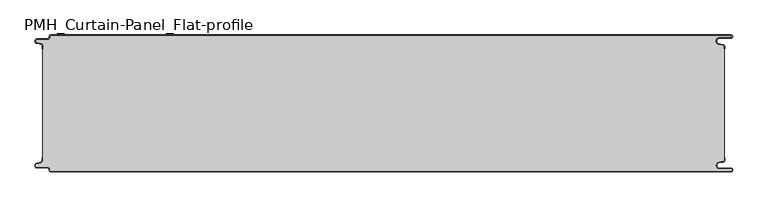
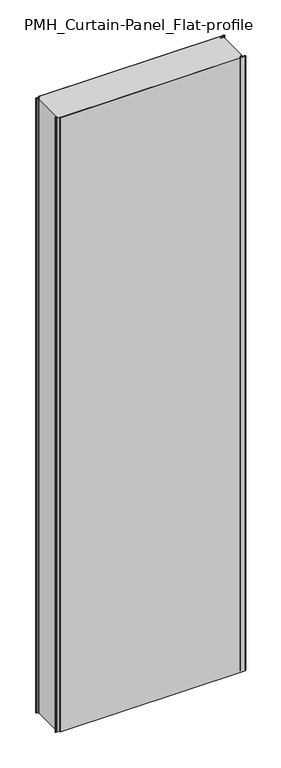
"""IFC4 building model written with IfcOpenShell, lengths in millimetres: plate geometry, PMH_Curtain-Panel_Flat-profile : ACH_PMH_Stone-wool-Panel_200M."""

import ifcopenshell
import ifcopenshell.guid

model = None  # the IFC model being written
_history = None  # IfcOwnerHistory: only IFC2X3 demands one
_inside = {}  # id of a spatial element -> (the spatial element, [elements in it])
_under = {}  # id of a project, library or spatial element -> (it, [spatial elements below it])
_declared = {}  # id of a project -> (the project, [libraries it declares])
_typed = {}  # id of a type object -> (the type object, [elements of that type])
_made_of = {}  # id of a material, layer set ... -> (it, [elements and type objects made of it])


def new_model(schema):
    """Start an empty IFC model of exactly this schema.

    Asked for "IFC4X3", IfcOpenShell would pick the latest addendum, in which some entities
    have other attributes; the version numbers below select the first issue.
    IFC2X3 requires an IfcOwnerHistory on every rooted entity: one is made here for all.
    """
    global model, _history
    if schema == "IFC4X3":
        model = ifcopenshell.file(schema_version=(4, 3, 0, 0))
    else:
        model = ifcopenshell.file(schema=schema)
    _inside.clear()
    _under.clear()
    _declared.clear()
    _typed.clear()
    _made_of.clear()
    _history = None
    if model.schema == "IFC2X3":
        org = make("IfcOrganization", Name="unknown")
        user = make(
            "IfcPersonAndOrganization",
            ThePerson=make("IfcPerson", FamilyName="unknown"),
            TheOrganization=org,
        )
        app = make(
            "IfcApplication",
            ApplicationDeveloper=org,
            Version="unknown",
            ApplicationFullName="unknown",
            ApplicationIdentifier="unknown",
        )
        _history = make(
            "IfcOwnerHistory",
            OwningUser=user,
            OwningApplication=app,
            ChangeAction="ADDED",
            CreationDate=0,
        )
    return model


def make(cls, **values):
    """One entity of the class cls with the attributes given. An attribute that is None is left unset."""
    return model.create_entity(
        cls, **{name: value for name, value in values.items() if value is not None}
    )


def rooted(cls, **values):
    """An entity with a GlobalId (a new one), such as an element, a storey or a relation."""
    return make(cls, GlobalId=ifcopenshell.guid.new(), OwnerHistory=_history, **values)


def si_unit(unit_type, name, prefix=None):
    """IfcSIUnit, for example si_unit("LENGTHUNIT", "METRE", prefix="MILLI")."""
    return make("IfcSIUnit", UnitType=unit_type, Prefix=prefix, Name=name)


def assignment(units):
    """IfcUnitAssignment: the units of a project."""
    return None if units is None else make("IfcUnitAssignment", Units=units)


def point(xyz):
    """IfcCartesianPoint."""
    return None if xyz is None else make("IfcCartesianPoint", Coordinates=xyz)


def direction(xyz):
    """IfcDirection."""
    return None if xyz is None else make("IfcDirection", DirectionRatios=xyz)


def frame(location, z_axis=None, x_axis=None):
    """IfcAxis2Placement3D, a coordinate frame: its origin and axes. An axis left out is left unset."""
    return make(
        "IfcAxis2Placement3D",
        Location=point(location),
        Axis=direction(z_axis),
        RefDirection=direction(x_axis),
    )


def frame_2d(location, x_axis=None):
    """IfcAxis2Placement2D, a coordinate frame in the plane: its origin and x axis."""
    return make(
        "IfcAxis2Placement2D", Location=point(location), RefDirection=direction(x_axis)
    )


def origin():
    """The frame at (0, 0, 0) with its axes left unset."""
    return frame((0.0, 0.0, 0.0))


def origin_with_axes():
    """The frame at (0, 0, 0) with the z axis (0, 0, 1) and the x axis (1, 0, 0) written out."""
    return frame((0.0, 0.0, 0.0), z_axis=(0.0, 0.0, 1.0), x_axis=(1.0, 0.0, 0.0))


def place(relative_to, where):
    """IfcLocalPlacement: puts the frame where relative to a parent placement (None: the world)."""
    return make(
        "IfcLocalPlacement", PlacementRelTo=relative_to, RelativePlacement=where
    )


def context(
    kind, dimensions, precision=None, world=None, true_north=None, identifier=None
):
    """IfcGeometricRepresentationContext, for example the 3D "Model" context."""
    return make(
        "IfcGeometricRepresentationContext",
        ContextIdentifier=identifier,
        ContextType=kind,
        CoordinateSpaceDimension=dimensions,
        Precision=precision,
        WorldCoordinateSystem=world,
        TrueNorth=true_north,
    )


def project(units=None, contexts=None):
    """IfcProject with its units and contexts."""
    return rooted(
        "IfcProject",
        Name="project",
        RepresentationContexts=contexts,
        UnitsInContext=assignment(units),
    )


def spatial(cls, under=None, at=None, **own):
    """A site, building, storey or space (cls), placed at a placement, below another one or the project."""
    s = rooted(cls, ObjectPlacement=at, **own)
    if under is not None:
        _under.setdefault(under.id(), (under, []))[1].append(s)
    return s


def polyline(points):
    """IfcPolyline through the points."""
    return make("IfcPolyline", Points=[point(p) for p in points])


def circle_curve(where, radius):
    """IfcCircle in the frame where."""
    return make("IfcCircle", Position=where, Radius=radius)


def trimmed(basis, trim1, trim2, sense, master):
    """IfcTrimmedCurve: the piece of a basis curve between two trims."""
    return make(
        "IfcTrimmedCurve",
        BasisCurve=basis,
        Trim1=trim1,
        Trim2=trim2,
        SenseAgreement=sense,
        MasterRepresentation=master,
    )


def segment(curve, same_sense, transition):
    """IfcCompositeCurveSegment."""
    return make(
        "IfcCompositeCurveSegment",
        Transition=transition,
        SameSense=same_sense,
        ParentCurve=curve,
    )


def composite_curve(segments, self_intersect=None):
    """IfcCompositeCurve: segments joined end to end."""
    return make("IfcCompositeCurve", Segments=segments, SelfIntersect=self_intersect)


def outline(outer, holes=None, kind="AREA"):
    """IfcArbitraryClosedProfileDef: a profile drawn as a closed curve; with holes, ...WithVoids."""
    if holes is None:
        return make("IfcArbitraryClosedProfileDef", ProfileType=kind, OuterCurve=outer)
    return make(
        "IfcArbitraryProfileDefWithVoids",
        ProfileType=kind,
        OuterCurve=outer,
        InnerCurves=holes,
    )


def extrude(swept, where, along, depth):
    """IfcExtrudedAreaSolid: the profile swept, set in the frame where, extruded along a direction by depth."""
    return make(
        "IfcExtrudedAreaSolid",
        SweptArea=swept,
        Position=where,
        ExtrudedDirection=direction(along),
        Depth=depth,
    )


def shape(context_of_items, identifier, shape_type, items):
    """IfcShapeRepresentation: the items that make up one representation, for example the "Body"."""
    return make(
        "IfcShapeRepresentation",
        ContextOfItems=context_of_items,
        RepresentationIdentifier=identifier,
        RepresentationType=shape_type,
        Items=items,
    )


def source(mapping_origin, context_of_items, identifier, shape_type, items):
    """IfcRepresentationMap: a shape defined once, which mapped items show again and again."""
    return make(
        "IfcRepresentationMap",
        MappingOrigin=mapping_origin,
        MappedRepresentation=shape(context_of_items, identifier, shape_type, items),
    )


def transform(
    local_origin,
    x_axis=None,
    y_axis=None,
    z_axis=None,
    scale=None,
    scale2=None,
    scale3=None,
    uniform=True,
):
    """IfcCartesianTransformationOperator3D, or its non-uniform kind. x_axis, y_axis, z_axis: its Axis1, 2, 3."""
    if uniform:
        return make(
            "IfcCartesianTransformationOperator3D",
            Axis1=direction(x_axis),
            Axis2=direction(y_axis),
            LocalOrigin=point(local_origin),
            Scale=scale,
            Axis3=direction(z_axis),
        )
    return make(
        "IfcCartesianTransformationOperator3DnonUniform",
        Axis1=direction(x_axis),
        Axis2=direction(y_axis),
        LocalOrigin=point(local_origin),
        Scale=scale,
        Axis3=direction(z_axis),
        Scale2=scale2,
        Scale3=scale3,
    )


def mapped(mapping_source, mapping_target):
    """IfcMappedItem: shows the shape of a source again, moved by a transform."""
    return make(
        "IfcMappedItem", MappingSource=mapping_source, MappingTarget=mapping_target
    )


def made_of(thing, what):
    """Note that an element or type object is made of a material, layer set ...; save() writes the relation."""
    if what is not None:
        _made_of.setdefault(what.id(), (what, []))[1].append(thing)
    return thing


def element(
    cls,
    number,
    at=None,
    inside=None,
    cuts=None,
    type_object=None,
    material=None,
    context=None,
    identifier="Body",
    shape_type=None,
    held_by="IfcProductDefinitionShape",
    body=None,
    shapes=None,
    **own,
):
    """One element of the class cls, such as IfcWall. Its Tag is "e" and its number.

    at: its placement. inside: the storey or other place that contains it. cuts: it is an
    opening in that element (IfcRelVoidsElement). A single representation is given by context,
    identifier, shape_type and body (its items); several are given by shapes. held_by: the class
    of the entity that holds the representations. save() writes the other relations.
    """
    e = rooted(cls, Tag="e%d" % number, ObjectPlacement=at, **own)
    if body is not None:
        shapes = [shape(context, identifier, shape_type, body)]
    if shapes is not None:
        e.Representation = make(held_by, Representations=shapes)
    if inside is not None:
        _inside.setdefault(inside.id(), (inside, []))[1].append(e)
    if cuts is not None:
        rooted(
            "IfcRelVoidsElement", RelatingBuildingElement=cuts, RelatedOpeningElement=e
        )
    if type_object is not None:
        _typed.setdefault(type_object.id(), (type_object, []))[1].append(e)
    return made_of(e, material)


def aggregate(whole, parts):
    """IfcRelAggregates: a whole, such as a stair, and the parts it consists of."""
    return rooted("IfcRelAggregates", RelatingObject=whole, RelatedObjects=parts)


def save(model, path):
    """Write the relations noted so far, then the file.

    IfcRelAggregates (storeys below a building ...), IfcRelContainedInSpatialStructure (elements
    in a storey), IfcRelDefinesByType, IfcRelAssociatesMaterial and IfcRelDeclares: one each for
    every whole, place, type object, material and project.
    """
    for whole, parts in _under.values():
        aggregate(whole, parts)
    for where, things in _inside.values():
        rooted(
            "IfcRelContainedInSpatialStructure",
            RelatedElements=things,
            RelatingStructure=where,
        )
    for kind, things in _typed.values():
        rooted("IfcRelDefinesByType", RelatedObjects=things, RelatingType=kind)
    for what, things in _made_of.values():
        rooted("IfcRelAssociatesMaterial", RelatedObjects=things, RelatingMaterial=what)
    for by, libraries in _declared.values():
        rooted("IfcRelDeclares", RelatingContext=by, RelatedDefinitions=libraries)
    model.write(path)


def plane_surface(at):
    """IfcPlane: the flat surface through the origin of the frame at, square to its z axis."""
    return make("IfcPlane", Position=at)


def cylinder_surface(at, radius):
    """IfcCylindricalSurface: all points at the distance radius from the z axis of the frame at."""
    return make("IfcCylindricalSurface", Position=at, Radius=radius)


def revolved_surface(curve, axis_point, axis_direction):
    """IfcSurfaceOfRevolution: the curve turned about the line through axis_point along axis_direction."""
    return make(
        "IfcSurfaceOfRevolution",
        SweptCurve=make("IfcArbitraryOpenProfileDef", ProfileType="CURVE", Curve=curve),
        AxisPosition=make("IfcAxis1Placement", Location=point(axis_point), Axis=direction(axis_direction)),
    )


def advanced_brep(points, edges, surfaces, faces):
    """IfcAdvancedBrep: a solid bounded by faces that lie on surfaces and meet in shared edges.

    An edge is (start, end): straight between two places in points (the first is 0);
    or (start, end, curve); or (start, end, curve, False) where it runs against its curve.
    A face is (place in surfaces, loops), or (place, loops, False) where it looks against
    its surface's normal. A loop lists edges by number (the first is 1), with a minus sign
    where the edge is run from its end to its start. The first loop is the outer one.
    """
    corners = [point(p) for p in points]
    vertices = [make("IfcVertexPoint", VertexGeometry=c) for c in corners]
    made = []
    for start, end, *more in edges:
        made.append(
            make(
                "IfcEdgeCurve",
                EdgeStart=vertices[start],
                EdgeEnd=vertices[end],
                EdgeGeometry=more[0] if more else make("IfcPolyline", Points=[corners[start], corners[end]]),
                SameSense=more[1] if len(more) > 1 else True,
            )
        )
    hull = []
    for where, loops, *sense in faces:
        bounds = []
        for j, loop in enumerate(loops):
            ring = [make("IfcOrientedEdge", EdgeElement=made[abs(k) - 1], Orientation=k > 0) for k in loop]
            bounds.append(
                make(
                    "IfcFaceOuterBound" if j == 0 else "IfcFaceBound",
                    Bound=make("IfcEdgeLoop", EdgeList=ring),
                    Orientation=True,
                )
            )
        hull.append(make("IfcAdvancedFace", Bounds=bounds, FaceSurface=surfaces[where], SameSense=sense[0] if sense else True))
    return make("IfcAdvancedBrep", Outer=make("IfcClosedShell", CfsFaces=hull))


def pmh_curtain_panel_flat_profile_07da86de(model_context):
    return source(origin(), model_context, "Body", "SolidModel", [
        advanced_brep(
        [(508.1, 0.0, 3500.0), (-487.4, 0.0, 3500.0), (-489.4, -2.0, 3500.0), (-489.4, -3.4, 3500.0), (-491.4, -5.4, 3500.0), (-506.9, -5.4, 3500.0), (-507.7098239, -12.5077322, 3500.0), (-501.5500979, -13.929817, 3500.0), (-500.0, -15.878557, 3500.0), (-500.0, -20.0, 3500.0), (-499.2, -20.0, 3500.0), (-499.2, -15.878557, 3500.0), (-501.370137, -13.1503208, 3500.0), (-507.529863, -11.728236, 3500.0), (-506.9, -6.2, 3500.0), (-491.4, -6.2, 3500.0), (-488.6, -3.4, 3500.0), (-488.6, -2.0, 3500.0), (-487.4, -0.8, 3500.0), (508.1, -0.8, 3500.0), (508.1, -4.2, 3500.0), (491.1, -4.2, 3500.0), (490.2664884, -13.7270771, 3500.0), (496.7125669, -14.8636953, 3500.0), (498.2, -16.6363492, 3500.0), (498.2, -20.0, 3500.0), (499.0, -20.0, 3500.0), (499.0, -16.6363492, 3500.0), (496.8514855, -14.0758491, 3500.0), (490.405407, -12.939231, 3500.0), (491.1, -5.0, 3500.0), (508.1, -5.0, 3500.0), (510.6, -2.5000002, 3500.0), (-487.4, 0.0, 0.0), (508.1, 0.0, 0.0), (510.6, -2.4999998, 0.0), (508.1, -5.0, 0.0), (491.1, -5.0, 0.0), (490.405407, -12.939231, 0.0), (496.8514855, -14.0758491, 0.0), (499.0, -16.6363492, 0.0), (499.0, -20.0, 0.0), (498.2, -20.0, 0.0), (498.2, -16.6363492, 0.0), (496.7125669, -14.8636953, 0.0), (490.2664884, -13.7270771, 0.0), (491.1, -4.2, 0.0), (508.1, -4.2, 0.0), (508.1, -0.8, 0.0), (-487.4, -0.8, 0.0), (-488.6, -2.0, 0.0), (-488.6, -3.4, 0.0), (-491.4, -6.2, 0.0), (-506.9, -6.2, 0.0), (-507.529863, -11.7282362, 0.0), (-501.370137, -13.150321, 0.0), (-499.2, -15.878557, 0.0), (-499.2, -20.0, 0.0), (-500.0, -20.0, 0.0), (-500.0, -15.878557, 0.0), (-501.5500978, -13.9298169, 0.0), (-507.7098239, -12.507732, 0.0), (-506.9, -5.4, 0.0), (-491.4, -5.4, 0.0), (-489.4, -3.4, 0.0), (-489.4, -2.0, 0.0)],
        [
            (0, 1),
            (1, 2, circle_curve(frame((-487.4, -2.0, 3500.0), z_axis=(0.0, 0.0, 1.0), x_axis=(1.0, 0.0, 0.0)), 2.0)),
            (2, 3),
            (3, 4, circle_curve(frame((-491.4, -3.4, 3500.0), z_axis=(0.0, 0.0, -1.0), x_axis=(1.0, 0.0, 0.0)), 2.0)),
            (4, 5),
            (5, 6, circle_curve(frame((-506.9, -9.0, 3500.0), z_axis=(0.0, 0.0, 1.0), x_axis=(1.0, 0.0, 0.0)), 3.6)),
            (6, 7),
            (7, 8, circle_curve(frame((-502.0, -15.878557, 3500.0), z_axis=(0.0, 0.0, -1.0), x_axis=(1.0, 0.0, 0.0)), 2.0)),
            (8, 9),
            (9, 10),
            (10, 11),
            (11, 12, circle_curve(frame((-502.0, -15.878557, 3500.0), z_axis=(0.0, 0.0, 1.0), x_axis=(1.0, 0.0, 0.0)), 2.8)),
            (12, 13),
            (13, 14, circle_curve(frame((-506.9, -9.0, 3500.0), z_axis=(0.0, 0.0, -1.0), x_axis=(1.0, 0.0, 0.0)), 2.8)),
            (14, 15),
            (15, 16, circle_curve(frame((-491.4, -3.4, 3500.0), z_axis=(0.0, 0.0, 1.0), x_axis=(1.0, 0.0, 0.0)), 2.8)),
            (16, 17),
            (17, 18, circle_curve(frame((-487.4, -2.0, 3500.0), z_axis=(0.0, 0.0, -1.0), x_axis=(1.0, 0.0, 0.0)), 1.2)),
            (18, 19),
            (19, 20, circle_curve(frame((508.1, -2.5, 3500.0), z_axis=(0.0, 0.0, -1.0), x_axis=(1.0, 0.0, 0.0)), 1.7)),
            (20, 21),
            (21, 22, circle_curve(frame((491.1, -9.0, 3500.0), z_axis=(0.0, 0.0, 1.0), x_axis=(1.0, 0.0, 0.0)), 4.8)),
            (22, 23),
            (23, 24, circle_curve(frame((496.4, -16.6363492, 3500.0), z_axis=(0.0, 0.0, -1.0), x_axis=(1.0, 0.0, 0.0)), 1.8)),
            (24, 25),
            (25, 26),
            (26, 27),
            (27, 28, circle_curve(frame((496.4, -16.6363492, 3500.0), z_axis=(0.0, 0.0, 1.0), x_axis=(1.0, 0.0, 0.0)), 2.6)),
            (28, 29),
            (29, 30, circle_curve(frame((491.1, -9.0, 3500.0), z_axis=(0.0, 0.0, -1.0), x_axis=(1.0, 0.0, 0.0)), 4.0)),
            (30, 31),
            (31, 32, circle_curve(frame((508.1, -2.5, 3500.0), z_axis=(0.0, 0.0, 1.0), x_axis=(1.0, 0.0, 0.0)), 2.5)),
            (32, 0, circle_curve(frame((508.1, -2.5, 3500.0), z_axis=(0.0, 0.0, 1.0), x_axis=(1.0, 0.0, 0.0)), 2.5)),
            (33, 34),
            (34, 35, circle_curve(frame((508.1, -2.5, 0.0), z_axis=(0.0, 0.0, -1.0), x_axis=(1.0, 0.0, 0.0)), 2.5)),
            (35, 36, circle_curve(frame((508.1, -2.5, 0.0), z_axis=(0.0, 0.0, -1.0), x_axis=(1.0, 0.0, 0.0)), 2.5)),
            (36, 37),
            (37, 38, circle_curve(frame((491.1, -9.0, 0.0), z_axis=(0.0, 0.0, 1.0), x_axis=(1.0, 0.0, 0.0)), 4.0)),
            (38, 39),
            (39, 40, circle_curve(frame((496.4, -16.6363492, 0.0), z_axis=(0.0, 0.0, -1.0), x_axis=(1.0, 0.0, 0.0)), 2.6)),
            (40, 41),
            (41, 42),
            (42, 43),
            (43, 44, circle_curve(frame((496.4, -16.6363492, 0.0), z_axis=(0.0, 0.0, 1.0), x_axis=(1.0, 0.0, 0.0)), 1.8)),
            (44, 45),
            (45, 46, circle_curve(frame((491.1, -9.0, 0.0), z_axis=(0.0, 0.0, -1.0), x_axis=(1.0, 0.0, 0.0)), 4.8)),
            (46, 47),
            (47, 48, circle_curve(frame((508.1, -2.5, 0.0), z_axis=(0.0, 0.0, 1.0), x_axis=(1.0, 0.0, 0.0)), 1.7)),
            (48, 49),
            (49, 50, circle_curve(frame((-487.4, -2.0, 0.0), z_axis=(0.0, 0.0, 1.0), x_axis=(1.0, 0.0, 0.0)), 1.2)),
            (50, 51),
            (51, 52, circle_curve(frame((-491.4, -3.4, 0.0), z_axis=(0.0, 0.0, -1.0), x_axis=(1.0, 0.0, 0.0)), 2.8)),
            (52, 53),
            (53, 54, circle_curve(frame((-506.9, -9.0, 0.0), z_axis=(0.0, 0.0, 1.0), x_axis=(1.0, 0.0, 0.0)), 2.8)),
            (54, 55),
            (55, 56, circle_curve(frame((-502.0, -15.878557, 0.0), z_axis=(0.0, 0.0, -1.0), x_axis=(1.0, 0.0, 0.0)), 2.8)),
            (56, 57),
            (57, 58),
            (58, 59),
            (59, 60, circle_curve(frame((-502.0, -15.878557, 0.0), z_axis=(0.0, 0.0, 1.0), x_axis=(1.0, 0.0, 0.0)), 2.0)),
            (60, 61),
            (61, 62, circle_curve(frame((-506.9, -9.0, 0.0), z_axis=(0.0, 0.0, -1.0), x_axis=(1.0, 0.0, 0.0)), 3.6)),
            (62, 63),
            (63, 64, circle_curve(frame((-491.4, -3.4, 0.0), z_axis=(0.0, 0.0, 1.0), x_axis=(1.0, 0.0, 0.0)), 2.0)),
            (64, 65),
            (65, 33, circle_curve(frame((-487.4, -2.0, 0.0), z_axis=(0.0, 0.0, -1.0), x_axis=(1.0, 0.0, 0.0)), 2.0)),
            (1, 33),
            (65, 2),
            (64, 3),
            (63, 4),
            (62, 5),
            (61, 6),
            (60, 7),
            (59, 8),
            (58, 9),
            (57, 10),
            (56, 11),
            (55, 12),
            (54, 13),
            (53, 14),
            (52, 15),
            (51, 16),
            (50, 17),
            (49, 18),
            (48, 19),
            (47, 20),
            (46, 21),
            (45, 22),
            (44, 23),
            (43, 24),
            (42, 25),
            (41, 26),
            (40, 27),
            (39, 28),
            (38, 29),
            (37, 30),
            (36, 31),
            (34, 0),
        ],
        [
            plane_surface(frame((-500.0, 0.0, 3500.0), z_axis=(0.0, 0.0, 1.0), x_axis=(0.0, 1.0, 0.0))),
            plane_surface(frame((-500.0, 0.0, 0.0), z_axis=(0.0, 0.0, -1.0), x_axis=(0.0, 1.0, 0.0))),
            cylinder_surface(frame((-487.4, -2.0, 3500.0), z_axis=(0.0, 0.0, 1.0), x_axis=(1.0, 0.0, 0.0)), 2.0),
            plane_surface(frame((-489.4, -2.0, 3500.0), z_axis=(-1.0, 0.0, 0.0), x_axis=(0.0, 0.0, -1.0))),
            revolved_surface(polyline([(-489.4, -3.4, 0.0), (-489.4, -3.4, 3500.0)]), (-491.4, -3.4, 3500.0), (0.0, 0.0, -1.0)),
            plane_surface(frame((-491.4, -5.4, 3500.0), z_axis=(0.0, 1.0, 0.0), x_axis=(0.0, 0.0, -1.0))),
            cylinder_surface(frame((-506.9, -9.0, 3500.0), z_axis=(0.0, 0.0, 1.0), x_axis=(1.0, 0.0, 0.0)), 3.6),
            plane_surface(frame((-507.7098239, -12.507732, 3500.0), z_axis=(-0.2249510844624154, -0.9743700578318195, 0.0), x_axis=(0.0, 0.0, -1.0))),
            revolved_surface(polyline([(-500.0, -15.878557, 0.0), (-500.0, -15.878557, 3500.0)]), (-502.0, -15.878557, 3500.0), (0.0, 0.0, -1.0)),
            plane_surface(frame((-500.0, -15.878557, 3500.0), z_axis=(-1.0, 0.0, 0.0), x_axis=(0.0, 0.0, -1.0))),
            plane_surface(frame((-500.0, -20.0, 3500.0), z_axis=(0.0, -1.0, 0.0), x_axis=(0.0, 0.0, -1.0))),
            plane_surface(frame((-499.2, -20.0, 3500.0), z_axis=(1.0, 0.0, 0.0), x_axis=(0.0, 0.0, -1.0))),
            cylinder_surface(frame((-502.0, -15.878557, 3500.0), z_axis=(0.0, 0.0, 1.0), x_axis=(1.0, 0.0, 0.0)), 2.8),
            plane_surface(frame((-501.370137, -13.150321, 3500.0), z_axis=(0.22495108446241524, 0.9743700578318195, 0.0), x_axis=(0.0, 0.0, -1.0))),
            revolved_surface(polyline([(-504.09999999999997, -9.0, 0.0), (-504.09999999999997, -9.0, 3500.0)]), (-506.9, -9.0, 3500.0), (0.0, 0.0, -1.0)),
            plane_surface(frame((-506.9, -6.2, 3500.0), z_axis=(0.0, -1.0, 0.0), x_axis=(0.0, 0.0, -1.0))),
            cylinder_surface(frame((-491.4, -3.4, 3500.0), z_axis=(0.0, 0.0, 1.0), x_axis=(1.0, 0.0, 0.0)), 2.8),
            plane_surface(frame((-488.6, -3.4, 3500.0), z_axis=(1.0, 0.0, 0.0), x_axis=(0.0, 0.0, -1.0))),
            revolved_surface(polyline([(-486.2, -2.0, 0.0), (-486.2, -2.0, 3500.0)]), (-487.4, -2.0, 3500.0), (0.0, 0.0, -1.0)),
            plane_surface(frame((-487.4, -0.8, 3500.0), z_axis=(0.0, -1.0, 0.0), x_axis=(0.0, 0.0, -1.0))),
            revolved_surface(polyline([(509.8, -2.5, 0.0), (509.8, -2.5, 3500.0)]), (508.1, -2.5, 3500.0), (0.0, 0.0, -1.0)),
            plane_surface(frame((508.1, -4.2, 3500.0), z_axis=(0.0, 1.0, 0.0), x_axis=(0.0, 0.0, -1.0))),
            cylinder_surface(frame((491.1, -9.0, 3500.0), z_axis=(0.0, 0.0, 1.0), x_axis=(1.0, 0.0, 0.0)), 4.8),
            plane_surface(frame((490.2664884, -13.7270771, 3500.0), z_axis=(-0.17364826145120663, -0.984807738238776, 0.0), x_axis=(0.0, 0.0, -1.0))),
            revolved_surface(polyline([(498.2, -16.6363492, 0.0), (498.2, -16.6363492, 3500.0)]), (496.4, -16.6363492, 3500.0), (0.0, 0.0, -1.0)),
            plane_surface(frame((498.2, -16.6363492, 3500.0), z_axis=(-1.0, 0.0, 0.0), x_axis=(0.0, 0.0, -1.0))),
            plane_surface(frame((498.2, -20.0, 3500.0), z_axis=(0.0, -1.0, 0.0), x_axis=(0.0, 0.0, -1.0))),
            plane_surface(frame((499.0, -20.0, 3500.0), z_axis=(1.0, 0.0, 0.0), x_axis=(0.0, 0.0, -1.0))),
            cylinder_surface(frame((496.4, -16.6363492, 3500.0), z_axis=(0.0, 0.0, 1.0), x_axis=(1.0, 0.0, 0.0)), 2.6),
            plane_surface(frame((496.8514855, -14.0758491, 3500.0), z_axis=(0.17364826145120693, 0.9848077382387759, 0.0), x_axis=(0.0, 0.0, -1.0))),
            revolved_surface(polyline([(495.1, -9.0, 0.0), (495.1, -9.0, 3500.0)]), (491.1, -9.0, 3500.0), (0.0, 0.0, -1.0)),
            plane_surface(frame((491.1, -5.0, 3500.0), z_axis=(0.0, -1.0, 0.0), x_axis=(0.0, 0.0, -1.0))),
            cylinder_surface(frame((508.1, -2.5, 3500.0), z_axis=(0.0, 0.0, 1.0), x_axis=(1.0, 0.0, 0.0)), 2.5),
            plane_surface(frame((490.5783588, 0.0, 3500.0), z_axis=(0.0, 1.0, 0.0), x_axis=(0.0, 0.0, -1.0))),
        ],
        [
            (0, [[1, 2, 3, 4, 5, 6, 7, 8, 9, 10, 11, 12, 13, 14, 15, 16, 17, 18, 19, 20, 21, 22, 23, 24, 25, 26, 27, 28, 29, 30, 31, 32, 33]]),
            (1, [[34, 35, 36, 37, 38, 39, 40, 41, 42, 43, 44, 45, 46, 47, 48, 49, 50, 51, 52, 53, 54, 55, 56, 57, 58, 59, 60, 61, 62, 63, 64, 65, 66]]),
            (2, [[-2, 67, -66, 68]]),
            (3, [[-3, -68, -65, 69]]),
            (4, [[-4, -69, -64, 70]]),
            (5, [[-5, -70, -63, 71]]),
            (6, [[-6, -71, -62, 72]]),
            (7, [[-7, -72, -61, 73]]),
            (8, [[-8, -73, -60, 74]]),
            (9, [[-9, -74, -59, 75]]),
            (10, [[-10, -75, -58, 76]]),
            (11, [[-11, -76, -57, 77]]),
            (12, [[-12, -77, -56, 78]]),
            (13, [[-13, -78, -55, 79]]),
            (14, [[-14, -79, -54, 80]]),
            (15, [[-15, -80, -53, 81]]),
            (16, [[-16, -81, -52, 82]]),
            (17, [[-17, -82, -51, 83]]),
            (18, [[-18, -83, -50, 84]]),
            (19, [[-19, -84, -49, 85]]),
            (20, [[-20, -85, -48, 86]]),
            (21, [[-21, -86, -47, 87]]),
            (22, [[-22, -87, -46, 88]]),
            (23, [[-23, -88, -45, 89]]),
            (24, [[-24, -89, -44, 90]]),
            (25, [[-25, -90, -43, 91]]),
            (26, [[-26, -91, -42, 92]]),
            (27, [[-27, -92, -41, 93]]),
            (28, [[-28, -93, -40, 94]]),
            (29, [[-29, -94, -39, 95]]),
            (30, [[-30, -95, -38, 96]]),
            (31, [[-31, -96, -37, 97]]),
            (32, [[-97, -36, -35, 98, -33, -32]]),
            (33, [[-1, -98, -34, -67]]),
        ],
    ),
        extrude(outline(composite_curve([segment(polyline([(-499.2, -184.1214426), (-499.2, -15.8785573)]), True, "CONTINUOUS"), segment(trimmed(circle_curve(frame_2d((-502.0, -15.8785573)), 2.8), [point((-499.2, -15.8785573))], [point((-501.370137, -13.1503212))], True, "CARTESIAN"), True, "CONTINUOUS"), segment(polyline([(-501.370137, -13.1503212), (-507.5298631, -11.7282362)]), True, "CONTINUOUS"), segment(trimmed(circle_curve(frame_2d((-506.9, -9.0)), 2.8), [point((-507.5298631, -11.7282362))], [point((-506.9, -6.2))], False, "CARTESIAN"), True, "CONTINUOUS"), segment(polyline([(-506.9, -6.2), (-491.4000001, -6.2)]), True, "CONTINUOUS"), segment(trimmed(circle_curve(frame_2d((-491.4000001, -3.4)), 2.8), [point((-491.4000001, -6.2))], [point((-488.6000001, -3.4))], True, "CARTESIAN"), True, "CONTINUOUS"), segment(polyline([(-488.6000001, -3.4), (-488.6000001, -2.0)]), True, "CONTINUOUS"), segment(trimmed(circle_curve(frame_2d((-487.4000001, -2.0)), 1.2), [point((-488.6000001, -2.0))], [point((-487.4000001, -0.8))], False, "CARTESIAN"), True, "CONTINUOUS"), segment(polyline([(-487.4000001, -0.8), (508.1, -0.8)]), True, "CONTINUOUS"), segment(trimmed(circle_curve(frame_2d((508.1, -2.5)), 1.7), [point((508.1, -0.8))], [point((508.1, -4.2))], False, "CARTESIAN"), True, "CONTINUOUS"), segment(polyline([(508.1, -4.2), (491.1, -4.2)]), True, "CONTINUOUS"), segment(trimmed(circle_curve(frame_2d((491.1, -9.0)), 4.8), [point((491.1, -4.2))], [point((490.2664883, -13.7270771))], True, "CARTESIAN"), True, "CONTINUOUS"), segment(polyline([(490.2664883, -13.7270771), (496.7125668, -14.8636953)]), True, "CONTINUOUS"), segment(trimmed(circle_curve(frame_2d((496.4, -16.6363492)), 1.8), [point((496.7125668, -14.8636953))], [point((498.2, -16.6363492))], False, "CARTESIAN"), True, "CONTINUOUS"), segment(polyline([(498.2, -16.6363492), (498.2, -183.3636508)]), True, "CONTINUOUS"), segment(trimmed(circle_curve(frame_2d((496.4, -183.3636508)), 1.8), [point((498.2, -183.3636508))], [point((496.7125668, -185.1363047))], False, "CARTESIAN"), True, "CONTINUOUS"), segment(polyline([(496.7125668, -185.1363047), (490.2664883, -186.2729229)]), True, "CONTINUOUS"), segment(trimmed(circle_curve(frame_2d((491.1, -191.0)), 4.8), [point((490.2664883, -186.2729229))], [point((491.1, -195.8))], True, "CARTESIAN"), True, "CONTINUOUS"), segment(polyline([(491.1, -195.8), (508.1, -195.8)]), True, "CONTINUOUS"), segment(trimmed(circle_curve(frame_2d((508.1, -197.5)), 1.7), [point((508.1, -195.8))], [point((508.1, -199.2))], False, "CARTESIAN"), True, "CONTINUOUS"), segment(polyline([(508.1, -199.2), (-487.4000001, -199.2)]), True, "CONTINUOUS"), segment(trimmed(circle_curve(frame_2d((-487.4000001, -198.0)), 1.2), [point((-487.4000001, -199.2))], [point((-488.6000001, -198.0))], False, "CARTESIAN"), True, "CONTINUOUS"), segment(polyline([(-488.6000001, -198.0), (-488.6000001, -196.6)]), True, "CONTINUOUS"), segment(trimmed(circle_curve(frame_2d((-491.4000001, -196.6)), 2.8), [point((-488.6000001, -196.6))], [point((-491.4000001, -193.8))], True, "CARTESIAN"), True, "CONTINUOUS"), segment(polyline([(-491.4000001, -193.8), (-506.9, -193.8)]), True, "CONTINUOUS"), segment(trimmed(circle_curve(frame_2d((-506.9, -191.0)), 2.8), [point((-506.9, -193.8))], [point((-507.5298631, -188.2717638))], False, "CARTESIAN"), True, "CONTINUOUS"), segment(polyline([(-507.5298631, -188.2717638), (-501.370137, -186.8496788)]), True, "CONTINUOUS"), segment(trimmed(circle_curve(frame_2d((-502.0, -184.1214426)), 2.8), [point((-501.370137, -186.8496788))], [point((-499.2, -184.1214426))], True, "CARTESIAN"), True, "CONTINUOUS")], self_intersect=False)), origin_with_axes(), (0.0, 0.0, 1.0), 3500.0),
        advanced_brep(
        [(-487.4, -200.0, 3500.0), (508.1, -200.0, 3500.0), (510.6, -197.5000002, 3500.0), (508.1, -195.0, 3500.0), (491.1, -195.0, 3500.0), (490.405407, -187.060769, 3500.0), (496.8514855, -185.9241509, 3500.0), (499.0, -183.3636508, 3500.0), (499.0, -180.0, 3500.0), (498.2, -180.0, 3500.0), (498.2, -183.3636508, 3500.0), (496.7125669, -185.1363047, 3500.0), (490.2664884, -186.2729229, 3500.0), (491.1, -195.8, 3500.0), (508.1, -195.8, 3500.0), (508.1, -199.2, 3500.0), (-487.4, -199.2, 3500.0), (-488.6, -198.0, 3500.0), (-488.6, -196.6, 3500.0), (-491.4, -193.8, 3500.0), (-506.9, -193.8, 3500.0), (-507.529863, -188.2717638, 3500.0), (-501.370137, -186.849679, 3500.0), (-499.2, -184.121443, 3500.0), (-499.2, -180.0, 3500.0), (-500.0, -180.0, 3500.0), (-500.0, -184.121443, 3500.0), (-501.5500978, -186.0701831, 3500.0), (-507.7098239, -187.492268, 3500.0), (-506.9, -194.6, 3500.0), (-491.4, -194.6, 3500.0), (-489.4, -196.6, 3500.0), (-489.4, -198.0, 3500.0), (508.1, -200.0, 0.0), (-487.4, -200.0, 0.0), (-489.4, -198.0, 0.0), (-489.4, -196.6, 0.0), (-491.4, -194.6, 0.0), (-506.9, -194.6, 0.0), (-507.7098239, -187.4922678, 0.0), (-501.5500979, -186.070183, 0.0), (-500.0, -184.121443, 0.0), (-500.0, -180.0, 0.0), (-499.2, -180.0, 0.0), (-499.2, -184.121443, 0.0), (-501.370137, -186.8496792, 0.0), (-507.529863, -188.271764, 0.0), (-506.9, -193.8, 0.0), (-491.4, -193.8, 0.0), (-488.6, -196.6, 0.0), (-488.6, -198.0, 0.0), (-487.4, -199.2, 0.0), (508.1, -199.2, 0.0), (508.1, -195.8, 0.0), (491.1, -195.8, 0.0), (490.2664884, -186.2729229, 0.0), (496.7125669, -185.1363047, 0.0), (498.2, -183.3636508, 0.0), (498.2, -180.0, 0.0), (499.0, -180.0, 0.0), (499.0, -183.3636508, 0.0), (496.8514855, -185.9241509, 0.0), (490.405407, -187.060769, 0.0), (491.1, -195.0, 0.0), (508.1, -195.0, 0.0), (510.6, -197.4999998, 0.0)],
        [
            (0, 1),
            (1, 2, circle_curve(frame((508.1, -197.5, 3500.0), z_axis=(0.0, 0.0, 1.0), x_axis=(1.0, 0.0, 0.0)), 2.5)),
            (2, 3, circle_curve(frame((508.1, -197.5, 3500.0), z_axis=(0.0, 0.0, 1.0), x_axis=(1.0, 0.0, 0.0)), 2.5)),
            (3, 4),
            (4, 5, circle_curve(frame((491.1, -191.0, 3500.0), z_axis=(0.0, 0.0, -1.0), x_axis=(1.0, 0.0, 0.0)), 4.0)),
            (5, 6),
            (6, 7, circle_curve(frame((496.4, -183.3636508, 3500.0), z_axis=(0.0, 0.0, 1.0), x_axis=(1.0, 0.0, 0.0)), 2.6)),
            (7, 8),
            (8, 9),
            (9, 10),
            (10, 11, circle_curve(frame((496.4, -183.3636508, 3500.0), z_axis=(0.0, 0.0, -1.0), x_axis=(1.0, 0.0, 0.0)), 1.8)),
            (11, 12),
            (12, 13, circle_curve(frame((491.1, -191.0, 3500.0), z_axis=(0.0, 0.0, 1.0), x_axis=(1.0, 0.0, 0.0)), 4.8)),
            (13, 14),
            (14, 15, circle_curve(frame((508.1, -197.5, 3500.0), z_axis=(0.0, 0.0, -1.0), x_axis=(1.0, 0.0, 0.0)), 1.7)),
            (15, 16),
            (16, 17, circle_curve(frame((-487.4, -198.0, 3500.0), z_axis=(0.0, 0.0, -1.0), x_axis=(1.0, 0.0, 0.0)), 1.2)),
            (17, 18),
            (18, 19, circle_curve(frame((-491.4, -196.6, 3500.0), z_axis=(0.0, 0.0, 1.0), x_axis=(1.0, 0.0, 0.0)), 2.8)),
            (19, 20),
            (20, 21, circle_curve(frame((-506.9, -191.0, 3500.0), z_axis=(0.0, 0.0, -1.0), x_axis=(1.0, 0.0, 0.0)), 2.8)),
            (21, 22),
            (22, 23, circle_curve(frame((-502.0, -184.121443, 3500.0), z_axis=(0.0, 0.0, 1.0), x_axis=(1.0, 0.0, 0.0)), 2.8)),
            (23, 24),
            (24, 25),
            (25, 26),
            (26, 27, circle_curve(frame((-502.0, -184.121443, 3500.0), z_axis=(0.0, 0.0, -1.0), x_axis=(1.0, 0.0, 0.0)), 2.0)),
            (27, 28),
            (28, 29, circle_curve(frame((-506.9, -191.0, 3500.0), z_axis=(0.0, 0.0, 1.0), x_axis=(1.0, 0.0, 0.0)), 3.6)),
            (29, 30),
            (30, 31, circle_curve(frame((-491.4, -196.6, 3500.0), z_axis=(0.0, 0.0, -1.0), x_axis=(1.0, 0.0, 0.0)), 2.0)),
            (31, 32),
            (32, 0, circle_curve(frame((-487.4, -198.0, 3500.0), z_axis=(0.0, 0.0, 1.0), x_axis=(1.0, 0.0, 0.0)), 2.0)),
            (33, 34),
            (34, 35, circle_curve(frame((-487.4, -198.0, 0.0), z_axis=(0.0, 0.0, -1.0), x_axis=(1.0, 0.0, 0.0)), 2.0)),
            (35, 36),
            (36, 37, circle_curve(frame((-491.4, -196.6, 0.0), z_axis=(0.0, 0.0, 1.0), x_axis=(1.0, 0.0, 0.0)), 2.0)),
            (37, 38),
            (38, 39, circle_curve(frame((-506.9, -191.0, 0.0), z_axis=(0.0, 0.0, -1.0), x_axis=(1.0, 0.0, 0.0)), 3.6)),
            (39, 40),
            (40, 41, circle_curve(frame((-502.0, -184.121443, 0.0), z_axis=(0.0, 0.0, 1.0), x_axis=(1.0, 0.0, 0.0)), 2.0)),
            (41, 42),
            (42, 43),
            (43, 44),
            (44, 45, circle_curve(frame((-502.0, -184.121443, 0.0), z_axis=(0.0, 0.0, -1.0), x_axis=(1.0, 0.0, 0.0)), 2.8)),
            (45, 46),
            (46, 47, circle_curve(frame((-506.9, -191.0, 0.0), z_axis=(0.0, 0.0, 1.0), x_axis=(1.0, 0.0, 0.0)), 2.8)),
            (47, 48),
            (48, 49, circle_curve(frame((-491.4, -196.6, 0.0), z_axis=(0.0, 0.0, -1.0), x_axis=(1.0, 0.0, 0.0)), 2.8)),
            (49, 50),
            (50, 51, circle_curve(frame((-487.4, -198.0, 0.0), z_axis=(0.0, 0.0, 1.0), x_axis=(1.0, 0.0, 0.0)), 1.2)),
            (51, 52),
            (52, 53, circle_curve(frame((508.1, -197.5, 0.0), z_axis=(0.0, 0.0, 1.0), x_axis=(1.0, 0.0, 0.0)), 1.7)),
            (53, 54),
            (54, 55, circle_curve(frame((491.1, -191.0, 0.0), z_axis=(0.0, 0.0, -1.0), x_axis=(1.0, 0.0, 0.0)), 4.8)),
            (55, 56),
            (56, 57, circle_curve(frame((496.4, -183.3636508, 0.0), z_axis=(0.0, 0.0, 1.0), x_axis=(1.0, 0.0, 0.0)), 1.8)),
            (57, 58),
            (58, 59),
            (59, 60),
            (60, 61, circle_curve(frame((496.4, -183.3636508, 0.0), z_axis=(0.0, 0.0, -1.0), x_axis=(1.0, 0.0, 0.0)), 2.6)),
            (61, 62),
            (62, 63, circle_curve(frame((491.1, -191.0, 0.0), z_axis=(0.0, 0.0, 1.0), x_axis=(1.0, 0.0, 0.0)), 4.0)),
            (63, 64),
            (64, 65, circle_curve(frame((508.1, -197.5, 0.0), z_axis=(0.0, 0.0, -1.0), x_axis=(1.0, 0.0, 0.0)), 2.5)),
            (65, 33, circle_curve(frame((508.1, -197.5, 0.0), z_axis=(0.0, 0.0, -1.0), x_axis=(1.0, 0.0, 0.0)), 2.5)),
            (0, 34),
            (33, 1),
            (64, 3),
            (63, 4),
            (62, 5),
            (61, 6),
            (60, 7),
            (59, 8),
            (58, 9),
            (57, 10),
            (56, 11),
            (55, 12),
            (54, 13),
            (53, 14),
            (52, 15),
            (51, 16),
            (50, 17),
            (49, 18),
            (48, 19),
            (47, 20),
            (46, 21),
            (45, 22),
            (44, 23),
            (43, 24),
            (42, 25),
            (41, 26),
            (40, 27),
            (39, 28),
            (38, 29),
            (37, 30),
            (36, 31),
            (35, 32),
        ],
        [
            plane_surface(frame((-500.0, -200.0, 3500.0), z_axis=(0.0, 0.0, 1.0), x_axis=(0.0, 1.0, 0.0))),
            plane_surface(frame((-500.0, -200.0, 0.0), z_axis=(0.0, 0.0, -1.0), x_axis=(0.0, 1.0, 0.0))),
            plane_surface(frame((490.5783588, -200.0, 3500.0), z_axis=(0.0, -1.0, 0.0), x_axis=(0.0, 0.0, -1.0))),
            cylinder_surface(frame((508.1, -197.5, 3500.0), z_axis=(0.0, 0.0, 1.0), x_axis=(1.0, 0.0, 0.0)), 2.5),
            plane_surface(frame((508.1, -195.0, 3500.0), z_axis=(0.0, 1.0, 0.0), x_axis=(0.0, 0.0, -1.0))),
            revolved_surface(polyline([(495.1, -191.0, 0.0), (495.1, -191.0, 3500.0)]), (491.1, -191.0, 3500.0), (0.0, 0.0, -1.0)),
            plane_surface(frame((490.405407, -187.060769, 3500.0), z_axis=(0.17364826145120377, -0.9848077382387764, 0.0), x_axis=(0.0, 0.0, -1.0))),
            cylinder_surface(frame((496.4, -183.3636508, 3500.0), z_axis=(0.0, 0.0, 1.0), x_axis=(1.0, 0.0, 0.0)), 2.6),
            plane_surface(frame((499.0, -183.3636508, 3500.0), z_axis=(1.0, 0.0, 0.0), x_axis=(0.0, 0.0, -1.0))),
            plane_surface(frame((499.0, -180.0, 3500.0), z_axis=(0.0, 1.0, 0.0), x_axis=(0.0, 0.0, -1.0))),
            plane_surface(frame((498.2, -180.0, 3500.0), z_axis=(-1.0, 0.0, 0.0), x_axis=(0.0, 0.0, -1.0))),
            revolved_surface(polyline([(498.2, -183.3636508, 0.0), (498.2, -183.3636508, 3500.0)]), (496.4, -183.3636508, 3500.0), (0.0, 0.0, -1.0)),
            plane_surface(frame((496.7125669, -185.1363047, 3500.0), z_axis=(-0.17364826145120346, 0.9848077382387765, 0.0), x_axis=(0.0, 0.0, -1.0))),
            cylinder_surface(frame((491.1, -191.0, 3500.0), z_axis=(0.0, 0.0, 1.0), x_axis=(1.0, 0.0, 0.0)), 4.8),
            plane_surface(frame((491.1, -195.8, 3500.0), z_axis=(0.0, -1.0, 0.0), x_axis=(0.0, 0.0, -1.0))),
            revolved_surface(polyline([(509.8, -197.5, 0.0), (509.8, -197.5, 3500.0)]), (508.1, -197.5, 3500.0), (0.0, 0.0, -1.0)),
            plane_surface(frame((508.1, -199.2, 3500.0), z_axis=(0.0, 1.0, 0.0), x_axis=(0.0, 0.0, -1.0))),
            revolved_surface(polyline([(-486.2, -198.0, 0.0), (-486.2, -198.0, 3500.0)]), (-487.4, -198.0, 3500.0), (0.0, 0.0, -1.0)),
            plane_surface(frame((-488.6, -198.0, 3500.0), z_axis=(1.0, 0.0, 0.0), x_axis=(0.0, 0.0, -1.0))),
            cylinder_surface(frame((-491.4, -196.6, 3500.0), z_axis=(0.0, 0.0, 1.0), x_axis=(1.0, 0.0, 0.0)), 2.8),
            plane_surface(frame((-491.4, -193.8, 3500.0), z_axis=(0.0, 1.0, 0.0), x_axis=(0.0, 0.0, -1.0))),
            revolved_surface(polyline([(-504.09999999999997, -191.0, 0.0), (-504.09999999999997, -191.0, 3500.0)]), (-506.9, -191.0, 3500.0), (0.0, 0.0, -1.0)),
            plane_surface(frame((-507.529863, -188.271764, 3500.0), z_axis=(0.2249510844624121, -0.9743700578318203, 0.0), x_axis=(0.0, 0.0, -1.0))),
            cylinder_surface(frame((-502.0, -184.121443, 3500.0), z_axis=(0.0, 0.0, 1.0), x_axis=(1.0, 0.0, 0.0)), 2.8),
            plane_surface(frame((-499.2, -184.121443, 3500.0), z_axis=(1.0, 0.0, 0.0), x_axis=(0.0, 0.0, -1.0))),
            plane_surface(frame((-499.2, -180.0, 3500.0), z_axis=(0.0, 1.0, 0.0), x_axis=(0.0, 0.0, -1.0))),
            plane_surface(frame((-500.0, -180.0, 3500.0), z_axis=(-1.0, 0.0, 0.0), x_axis=(0.0, 0.0, -1.0))),
            revolved_surface(polyline([(-500.0, -184.121443, 0.0), (-500.0, -184.121443, 3500.0)]), (-502.0, -184.121443, 3500.0), (0.0, 0.0, -1.0)),
            plane_surface(frame((-501.5500979, -186.070183, 3500.0), z_axis=(-0.22495108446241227, 0.9743700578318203, 0.0), x_axis=(0.0, 0.0, -1.0))),
            cylinder_surface(frame((-506.9, -191.0, 3500.0), z_axis=(0.0, 0.0, 1.0), x_axis=(1.0, 0.0, 0.0)), 3.6),
            plane_surface(frame((-506.9, -194.6, 3500.0), z_axis=(0.0, -1.0, 0.0), x_axis=(0.0, 0.0, -1.0))),
            revolved_surface(polyline([(-489.4, -196.6, 0.0), (-489.4, -196.6, 3500.0)]), (-491.4, -196.6, 3500.0), (0.0, 0.0, -1.0)),
            plane_surface(frame((-489.4, -196.6, 3500.0), z_axis=(-1.0, 0.0, 0.0), x_axis=(0.0, 0.0, -1.0))),
            cylinder_surface(frame((-487.4, -198.0, 3500.0), z_axis=(0.0, 0.0, 1.0), x_axis=(1.0, 0.0, 0.0)), 2.0),
        ],
        [
            (0, [[1, 2, 3, 4, 5, 6, 7, 8, 9, 10, 11, 12, 13, 14, 15, 16, 17, 18, 19, 20, 21, 22, 23, 24, 25, 26, 27, 28, 29, 30, 31, 32, 33]]),
            (1, [[34, 35, 36, 37, 38, 39, 40, 41, 42, 43, 44, 45, 46, 47, 48, 49, 50, 51, 52, 53, 54, 55, 56, 57, 58, 59, 60, 61, 62, 63, 64, 65, 66]]),
            (2, [[-1, 67, -34, 68]]),
            (3, [[-68, -66, -65, 69, -3, -2]]),
            (4, [[-4, -69, -64, 70]]),
            (5, [[-5, -70, -63, 71]]),
            (6, [[-6, -71, -62, 72]]),
            (7, [[-7, -72, -61, 73]]),
            (8, [[-8, -73, -60, 74]]),
            (9, [[-9, -74, -59, 75]]),
            (10, [[-10, -75, -58, 76]]),
            (11, [[-11, -76, -57, 77]]),
            (12, [[-12, -77, -56, 78]]),
            (13, [[-13, -78, -55, 79]]),
            (14, [[-14, -79, -54, 80]]),
            (15, [[-15, -80, -53, 81]]),
            (16, [[-16, -81, -52, 82]]),
            (17, [[-17, -82, -51, 83]]),
            (18, [[-18, -83, -50, 84]]),
            (19, [[-19, -84, -49, 85]]),
            (20, [[-20, -85, -48, 86]]),
            (21, [[-21, -86, -47, 87]]),
            (22, [[-22, -87, -46, 88]]),
            (23, [[-23, -88, -45, 89]]),
            (24, [[-24, -89, -44, 90]]),
            (25, [[-25, -90, -43, 91]]),
            (26, [[-26, -91, -42, 92]]),
            (27, [[-27, -92, -41, 93]]),
            (28, [[-28, -93, -40, 94]]),
            (29, [[-29, -94, -39, 95]]),
            (30, [[-30, -95, -38, 96]]),
            (31, [[-31, -96, -37, 97]]),
            (32, [[-32, -97, -36, 98]]),
            (33, [[-33, -98, -35, -67]]),
        ],
    ),
    ])


if __name__ == "__main__":
    model = new_model("IFC4")
    model_context = context("Model", 3, world=origin())
    ifc_project = project(units=[si_unit("LENGTHUNIT", "METRE", prefix="MILLI")], contexts=[model_context])
    site = spatial("IfcSite", under=ifc_project)
    building = spatial("IfcBuilding", under=site)
    placement = place(None, origin())
    pmh_curtain_panel_flat_profile_shape = pmh_curtain_panel_flat_profile_07da86de(model_context)
    element("IfcPlate", 1, ObjectType="PMH_Curtain-Panel_Flat-profile : ACH_PMH_Stone-wool-Panel_200M", at=placement, inside=building, context=model_context, shape_type="MappedRepresentation", body=[
        mapped(pmh_curtain_panel_flat_profile_shape, transform((0.0, 0.0, 0.0), x_axis=(1.0, 0.0, 0.0), y_axis=(0.0, 1.0, 0.0), z_axis=(0.0, 0.0, 1.0))),
    ])
    save(model, "model.ifc")
